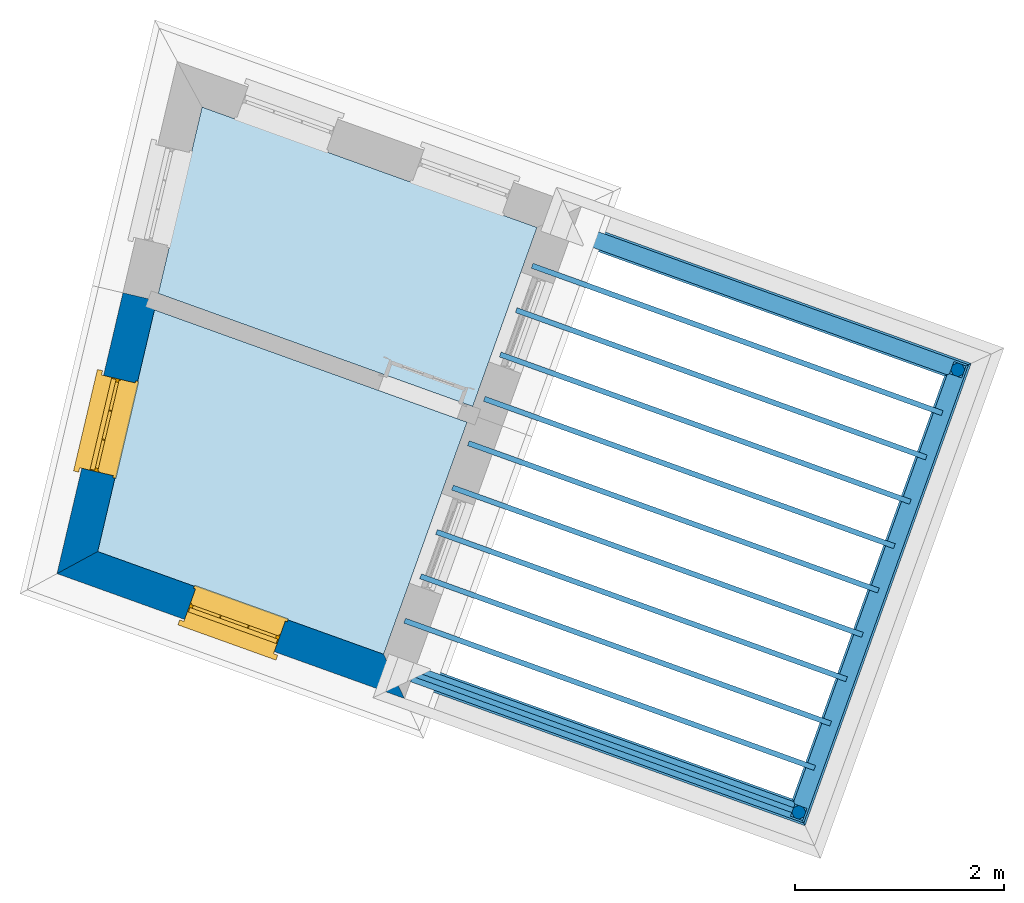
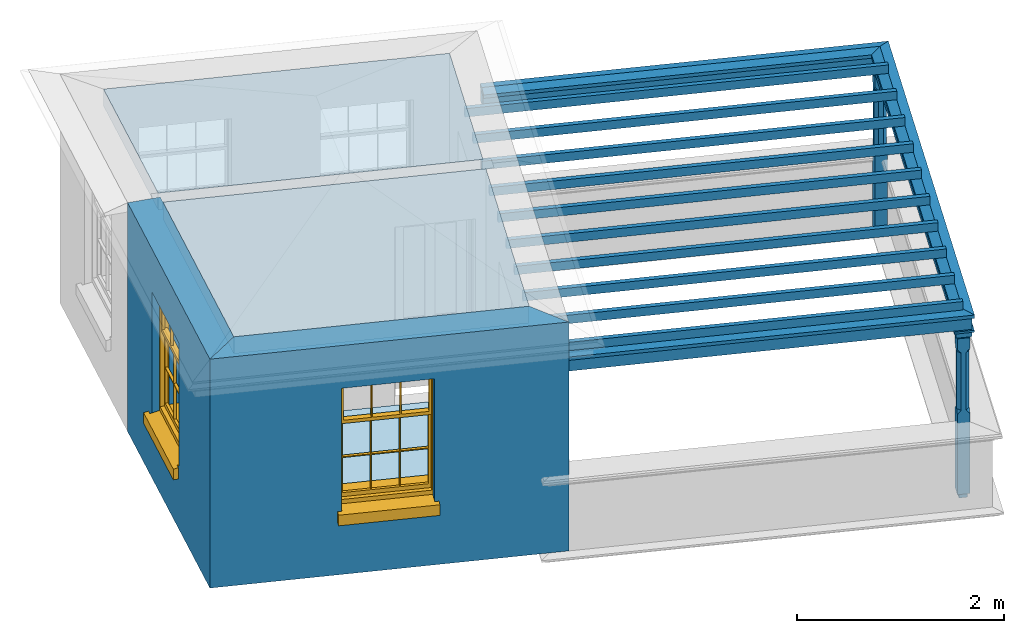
# One storey, part 1 of 5: 16 beams, 3 slabs, 2 columns, 2 walls, 2 windows, 2 openings.
"""IFC4 building model written with IfcOpenShell, lengths in metres."""

from ifc_helpers import new_model, si_unit, frame, origin, origin_with_axes, place, context, subcontext, project, spatial, polyline, outline, extrude, clip, halfspace, faceted_brep, source, transform, mapped, material, layer, layer_set, layer_usage, material_profile, profile_set, profile_usage, type_object, type_shapes, element, fill, save


model = new_model("IFC4")

# Units and contexts
model_context = context("Model", 3, world=origin_with_axes())
body_context = subcontext(model_context, "Body", "Model", "MODEL_VIEW")
ifc_project = project(units=[si_unit("PLANEANGLEUNIT", "RADIAN"), si_unit("MASSUNIT", "GRAM", prefix="KILO"), si_unit("FORCEUNIT", "NEWTON", prefix="KILO"), si_unit("LENGTHUNIT", "METRE"), si_unit("AREAUNIT", "SQUARE_METRE"), si_unit("VOLUMEUNIT", "CUBIC_METRE")], contexts=[model_context, model_context])

# Sites, building, storey
site_1_placement = place(None, origin_with_axes())
site_1 = spatial("IfcSite", under=ifc_project, at=site_1_placement, Name="Tamar")
site_2_placement = place(site_1_placement, origin_with_axes())
site_2 = spatial("IfcSite", under=site_1, at=site_2_placement, Name="Site plot-22", CompositionType="ELEMENT")
building_placement = place(None, origin_with_axes())
building = spatial("IfcBuilding", under=site_2, at=building_placement, Name="Building plot-22", CompositionType="ELEMENT")
storey_placement = place(None, frame((0.0, 0.0, 30.5), z_axis=(0.0, 0.0, 1.0), x_axis=(1.0, 0.0, 0.0)))
storey = spatial("IfcBuildingStorey", under=building, at=storey_placement, Name="plot-22 2", CompositionType="ELEMENT", Elevation=30.5)

# Columns
column_type = type_object("IfcColumnType", Name="pergola post", PredefinedType="NOTDEFINED")
shared_shape_1 = source(origin(), body_context, "Body", "Brep", [
    faceted_brep([(0.0246, -0.0615, 1.72), (0.0615, -0.0246, 1.72), (0.0615, -0.0615, 1.766667), (0.0615, -0.0246, 1.044444), (0.0246, -0.0615, 1.044444), (0.0615, 0.0246, 1.72), (0.0615, 0.0615, 1.766667), (-0.0246, -0.0615, 1.72), (-0.0615, -0.0615, 1.766667), (-0.0246, -0.0615, 1.044444), (0.0615, -0.0615, 0.997778), (0.0615, 0.0246, 1.044444), (0.0246, 0.0615, 1.72), (0.0615, 0.0615, 1.891111), (0.0615, -0.0615, 1.891111), (-0.0615, -0.0615, 1.891111), (-0.0615, -0.0246, 1.72), (-0.0615, -0.0246, 1.044444), (-0.0615, -0.0615, 0.997778), (0.0615, 0.0615, 0.997778), (0.0246, 0.0615, 1.044444), (-0.0246, 0.0615, 1.72), (-0.0615, 0.0615, 1.766667), (0.04305, 0.04305, 1.891111), (0.04305, -0.04305, 1.891111), (-0.0615, 0.0615, 1.891111), (-0.04305, -0.04305, 1.891111), (-0.0615, 0.0246, 1.72), (-0.0615, 0.0246, 1.044444), (0.0615, -0.0615, 0.053333), (-0.0615, -0.0615, 0.053333), (0.0615, 0.0615, 0.053333), (-0.0246, 0.0615, 1.044444), (-0.04305, 0.04305, 1.891111), (0.04305, 0.04305, 1.914444), (0.04305, -0.04305, 1.914444), (-0.04305, -0.04305, 1.914444), (-0.0615, 0.0615, 0.997778), (-0.0615, 0.0615, 0.053333), (-0.04305, -0.04305, 0.053333), (0.04305, -0.04305, 0.053333), (0.04305, 0.04305, 0.053333), (-0.04305, 0.04305, 1.914444), (0.07995, 0.07995, 1.914444), (0.07995, -0.07995, 1.914444), (-0.07995, -0.07995, 1.914444), (-0.04305, 0.04305, 0.053333), (-0.04305, -0.04305, 0.0), (0.04305, -0.04305, 0.0), (0.04305, 0.04305, 0.0), (-0.07995, 0.07995, 1.914444), (0.07995, 0.07995, 1.976667), (0.07995, -0.07995, 1.976667), (-0.07995, -0.07995, 1.976667), (-0.04305, 0.04305, 0.0), (-0.07995, 0.07995, 1.976667), (0.0984, 0.0984, 1.976667), (0.0984, -0.0984, 1.976667), (-0.0984, -0.0984, 1.976667), (-0.0984, 0.0984, 1.976667), (0.0984, 0.0984, 2.0), (0.0984, -0.0984, 2.0), (-0.0984, -0.0984, 2.0), (-0.0984, 0.0984, 2.0)], [[[0, 1, 2]], [[3, 1, 0, 4]], [[1, 5, 6, 2]], [[7, 0, 2, 8]], [[4, 0, 7, 9]], [[3, 4, 10]], [[1, 3, 11, 5]], [[5, 12, 6]], [[13, 14, 2, 6]], [[15, 8, 2, 14]], [[8, 16, 7]], [[9, 7, 16, 17]], [[9, 18, 10, 4]], [[3, 10, 19, 11]], [[20, 12, 5, 11]], [[21, 22, 6, 12]], [[14, 13, 23, 24]], [[13, 6, 22, 25]], [[25, 22, 8, 15]], [[26, 15, 14, 24]], [[16, 8, 22, 27]], [[27, 28, 17, 16]], [[17, 18, 9]], [[29, 10, 18, 30]], [[31, 19, 10, 29]], [[20, 11, 19]], [[12, 20, 32, 21]], [[21, 27, 22]], [[33, 23, 13, 25]], [[23, 34, 35, 24]], [[26, 33, 25, 15]], [[36, 26, 24, 35]], [[28, 27, 21, 32]], [[17, 28, 37, 18]], [[38, 30, 18, 37]], [[29, 30, 39, 40]], [[31, 38, 37, 19]], [[40, 41, 31, 29]], [[32, 20, 19, 37]], [[33, 42, 34, 23]], [[43, 44, 35, 34]], [[42, 33, 26, 36]], [[36, 35, 44, 45]], [[28, 32, 37]], [[46, 39, 30, 38]], [[39, 47, 48, 40]], [[46, 38, 31, 41]], [[49, 41, 40, 48]], [[43, 34, 42, 50]], [[43, 51, 52, 44]], [[45, 50, 42, 36]], [[53, 45, 44, 52]], [[46, 54, 47, 39]], [[54, 46, 41, 49]], [[50, 55, 51, 43]], [[56, 57, 52, 51]], [[55, 50, 45, 53]], [[53, 52, 57, 58]], [[56, 51, 55, 59]], [[56, 60, 61, 57]], [[58, 59, 55, 53]], [[62, 58, 57, 61]], [[59, 63, 60, 56]], [[63, 62, 61, 60]], [[58, 62, 63, 59]], [[47, 54, 49, 48]]]),
])
type_shapes(column_type, [shared_shape_1])
for number, where, z_axis, x_axis, name in (
    (1, (256.825968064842, 269.392124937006, 0.0), (0.0, 0.0, 1.0), (0.338164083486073, 0.941087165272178, 0.0), "pergola post"),
    (2, (258.344209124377, 273.617284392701, 0.0), (0.0, 0.0, 1.0), (-0.941087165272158, 0.338164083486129, 0.0), "pergola post"),
):
    element("IfcColumn", number, at=place(storey_placement, frame(where, z_axis=z_axis, x_axis=x_axis)), inside=storey, type_object=column_type, Name=name, context=body_context, shape_type="MappedRepresentation", body=[
        mapped(shared_shape_1, transform((0.0, 0.0, 0.0), scale=1.0)),
    ])

# Beams
ifc_material_profile_1 = material_profile(None, outline(polyline([(-0.08, -0.7), (0.08, -0.7), (0.08, -0.56), (-0.08, -0.56), (-0.08, -0.7)])))
ifc_profile_set_1 = profile_set([ifc_material_profile_1])
ifc_profile_usage_1 = profile_usage(ifc_profile_set_1)
beam_type_1 = type_object("IfcBeamType", Name="pergola beam_0", PredefinedType="NOTDEFINED", material=ifc_profile_set_1)
beam_1_placement = place(storey_placement, frame((257.767055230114, 269.05396085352, 2.7), z_axis=(-0.941087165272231, 0.338164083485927, 0.0), x_axis=(-0.338164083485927, -0.941087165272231, 0.0)))
element("IfcBeam", 3, at=beam_1_placement, inside=storey, type_object=beam_type_1, material=ifc_profile_usage_1, Name="pergola beam_0", context=body_context, shape_type="Clipping", body=[
    clip(clip(extrude(outline(polyline([(-0.08, -0.7), (0.08, -0.7), (0.08, -0.56), (-0.08, -0.56), (-0.08, -0.7)])), origin_with_axes(), (0.0, 0.0, 1.0), 5.90963962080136), halfspace(frame((0.0, 0.0, 4.90963962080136), z_axis=(1.10409979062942e-14, 0.0, -1.0), x_axis=(0.0, 1.0, 0.0)), True)), halfspace(frame((0.0, 0.0, 1.0), z_axis=(-0.707106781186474, 0.0, -0.70710678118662), x_axis=(0.0, 1.0, 0.0)), False)),
])
ifc_profile_usage_2 = profile_usage(ifc_profile_set_1)
beam_2_placement = place(storey_placement, frame((258.682373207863, 274.558371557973, 2.7), z_axis=(-0.338164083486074, -0.941087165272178, 0.0), x_axis=(0.941087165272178, -0.338164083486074, 0.0)))
element("IfcBeam", 4, at=beam_2_placement, inside=storey, type_object=beam_type_1, material=ifc_profile_usage_2, Name="pergola beam_0", context=body_context, shape_type="Clipping", body=[
    clip(clip(extrude(outline(polyline([(-0.08, -0.7), (0.08, -0.7), (0.08, -0.56), (-0.08, -0.56), (-0.08, -0.7)])), origin_with_axes(), (0.0, 0.0, 1.0), 6.48965793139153), halfspace(frame((0.0, 0.0, 5.48965793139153), z_axis=(0.70710678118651, 0.0, -0.707106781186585), x_axis=(0.0, 1.0, 0.0)), True)), halfspace(frame((0.0, 0.0, 1.0), z_axis=(-0.707106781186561, 0.0, -0.707106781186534), x_axis=(0.0, 1.0, 0.0)), False)),
])
ifc_profile_usage_3 = profile_usage(ifc_profile_set_1)
beam_3_placement = place(storey_placement, frame((253.723810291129, 275.277548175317, 2.7), z_axis=(0.941087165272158, -0.33816408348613, 0.0), x_axis=(0.33816408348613, 0.941087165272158, 0.0)))
element("IfcBeam", 5, at=beam_3_placement, inside=storey, type_object=beam_type_1, material=ifc_profile_usage_3, Name="pergola beam_0", context=body_context, shape_type="Clipping", body=[
    clip(clip(extrude(outline(polyline([(-0.08, -0.7), (0.08, -0.7), (0.08, -0.56), (-0.08, -0.56), (-0.08, -0.7)])), origin_with_axes(), (0.0, 0.0, 1.0), 5.90963962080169), halfspace(frame((0.0, 0.0, 4.90963962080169), z_axis=(0.707106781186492, 0.0, -0.707106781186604), x_axis=(0.0, 1.0, 0.0)), True)), halfspace(frame((0.0, 0.0, 1.0), z_axis=(1.27103528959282e-15, 0.0, -1.0), x_axis=(0.0, 1.0, 0.0)), False)),
])
ifc_material_profile_2 = material_profile(None, outline(polyline([(0.0, -0.5), (-0.1, -0.52), (-0.1, -0.56), (0.1, -0.56), (0.1, -0.52), (0.0, -0.5)])))
ifc_profile_set_2 = profile_set([ifc_material_profile_2])
ifc_profile_usage_4 = profile_usage(ifc_profile_set_2)
beam_type_2 = type_object("IfcBeamType", Name="pergola beam_1", PredefinedType="NOTDEFINED", material=ifc_profile_set_2)
beam_4_placement = place(storey_placement, frame((257.767055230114, 269.05396085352, 2.7), z_axis=(-0.941087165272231, 0.338164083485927, 0.0), x_axis=(-0.338164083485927, -0.941087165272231, 0.0)))
element("IfcBeam", 6, at=beam_4_placement, inside=storey, type_object=beam_type_2, material=ifc_profile_usage_4, Name="pergola beam_1", context=body_context, shape_type="Clipping", body=[
    clip(clip(extrude(outline(polyline([(0.0, -0.5), (-0.1, -0.52), (-0.1, -0.56), (0.1, -0.56), (0.1, -0.52), (0.0, -0.5)])), origin_with_axes(), (0.0, 0.0, 1.0), 5.90963962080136), halfspace(frame((0.0, 0.0, 4.90963962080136), z_axis=(1.10409979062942e-14, 0.0, -1.0), x_axis=(0.0, 1.0, 0.0)), True)), halfspace(frame((0.0, 0.0, 1.0), z_axis=(-0.707106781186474, 0.0, -0.70710678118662), x_axis=(0.0, 1.0, 0.0)), False)),
])
ifc_profile_usage_5 = profile_usage(ifc_profile_set_2)
beam_5_placement = place(storey_placement, frame((258.682373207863, 274.558371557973, 2.7), z_axis=(-0.338164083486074, -0.941087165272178, 0.0), x_axis=(0.941087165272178, -0.338164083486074, 0.0)))
element("IfcBeam", 7, at=beam_5_placement, inside=storey, type_object=beam_type_2, material=ifc_profile_usage_5, Name="pergola beam_1", context=body_context, shape_type="Clipping", body=[
    clip(clip(extrude(outline(polyline([(0.0, -0.5), (-0.1, -0.52), (-0.1, -0.56), (0.1, -0.56), (0.1, -0.52), (0.0, -0.5)])), origin_with_axes(), (0.0, 0.0, 1.0), 6.48965793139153), halfspace(frame((0.0, 0.0, 5.48965793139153), z_axis=(0.70710678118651, 0.0, -0.707106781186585), x_axis=(0.0, 1.0, 0.0)), True)), halfspace(frame((0.0, 0.0, 1.0), z_axis=(-0.707106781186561, 0.0, -0.707106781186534), x_axis=(0.0, 1.0, 0.0)), False)),
])
ifc_profile_usage_6 = profile_usage(ifc_profile_set_2)
beam_6_placement = place(storey_placement, frame((253.723810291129, 275.277548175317, 2.7), z_axis=(0.941087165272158, -0.33816408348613, 0.0), x_axis=(0.33816408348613, 0.941087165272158, 0.0)))
element("IfcBeam", 8, at=beam_6_placement, inside=storey, type_object=beam_type_2, material=ifc_profile_usage_6, Name="pergola beam_1", context=body_context, shape_type="Clipping", body=[
    clip(clip(extrude(outline(polyline([(0.0, -0.5), (-0.1, -0.52), (-0.1, -0.56), (0.1, -0.56), (0.1, -0.52), (0.0, -0.5)])), origin_with_axes(), (0.0, 0.0, 1.0), 5.90963962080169), halfspace(frame((0.0, 0.0, 4.90963962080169), z_axis=(0.707106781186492, 0.0, -0.707106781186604), x_axis=(0.0, 1.0, 0.0)), True)), halfspace(frame((0.0, 0.0, 1.0), z_axis=(1.27103528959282e-15, 0.0, -1.0), x_axis=(0.0, 1.0, 0.0)), False)),
])
beam_7_placement = place(storey_placement, frame((256.817513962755, 269.368597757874, 2.2)))
element("IfcBeam", 9, at=beam_7_placement, inside=storey, Name="My Beam", ObjectType="Beam", context=body_context, shape_type="SweptSolid", body=[
    extrude(outline(polyline([(0.0, 0.0), (0.0169082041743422, 0.0470543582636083), (-3.89767525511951, 1.45369507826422), (-3.91458345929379, 1.40664072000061), (0.0, 0.0)])), origin_with_axes(), (0.0, 0.0, 1.0), 0.1),
])
beam_8_placement = place(storey_placement, frame((256.969687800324, 269.792086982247, 2.2)))
element("IfcBeam", 10, at=beam_8_placement, inside=storey, Name="My Beam", ObjectType="Beam", context=body_context, shape_type="SweptSolid", body=[
    extrude(outline(polyline([(0.0, 0.0), (0.0169082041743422, 0.0470543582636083), (-3.89767525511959, 1.45369507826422), (-3.91458345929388, 1.40664072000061), (0.0, 0.0)])), origin_with_axes(), (0.0, 0.0, 1.0), 0.1),
])
beam_9_placement = place(storey_placement, frame((257.121861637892, 270.215576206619, 2.2)))
element("IfcBeam", 11, at=beam_9_placement, inside=storey, Name="My Beam", ObjectType="Beam", context=body_context, shape_type="SweptSolid", body=[
    extrude(outline(polyline([(0.0, 0.0), (0.0169082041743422, 0.0470543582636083), (-3.89767525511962, 1.45369507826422), (-3.91458345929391, 1.40664072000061), (0.0, 0.0)])), origin_with_axes(), (0.0, 0.0, 1.0), 0.1),
])
beam_10_placement = place(storey_placement, frame((257.274035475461, 270.639065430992, 2.2)))
element("IfcBeam", 12, at=beam_10_placement, inside=storey, Name="My Beam", ObjectType="Beam", context=body_context, shape_type="SweptSolid", body=[
    extrude(outline(polyline([(0.0, 0.0), (0.0169082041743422, 0.0470543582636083), (-3.89767525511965, 1.45369507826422), (-3.91458345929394, 1.40664072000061), (0.0, 0.0)])), origin_with_axes(), (0.0, 0.0, 1.0), 0.1),
])
beam_11_placement = place(storey_placement, frame((257.42620931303, 271.062554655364, 2.2)))
element("IfcBeam", 13, at=beam_11_placement, inside=storey, Name="My Beam", ObjectType="Beam", context=body_context, shape_type="SweptSolid", body=[
    extrude(outline(polyline([(0.0, 0.0), (0.0169082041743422, 0.0470543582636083), (-3.89767525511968, 1.45369507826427), (-3.91458345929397, 1.40664072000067), (0.0, 0.0)])), origin_with_axes(), (0.0, 0.0, 1.0), 0.1),
])
beam_12_placement = place(storey_placement, frame((257.578383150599, 271.486043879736, 2.2)))
element("IfcBeam", 14, at=beam_12_placement, inside=storey, Name="My Beam", ObjectType="Beam", context=body_context, shape_type="SweptSolid", body=[
    extrude(outline(polyline([(0.0, 0.0), (0.0169082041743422, 0.0470543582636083), (-3.89767525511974, 1.45369507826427), (-3.91458345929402, 1.40664072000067), (0.0, 0.0)])), origin_with_axes(), (0.0, 0.0, 1.0), 0.1),
])
beam_13_placement = place(storey_placement, frame((257.730556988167, 271.909533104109, 2.2)))
element("IfcBeam", 15, at=beam_13_placement, inside=storey, Name="My Beam", ObjectType="Beam", context=body_context, shape_type="SweptSolid", body=[
    extrude(outline(polyline([(0.0, 0.0), (0.0169082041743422, 0.0470543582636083), (-3.89767525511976, 1.45369507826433), (-3.91458345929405, 1.40664072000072), (0.0, 0.0)])), origin_with_axes(), (0.0, 0.0, 1.0), 0.1),
])
beam_14_placement = place(storey_placement, frame((257.882730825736, 272.333022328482, 2.2)))
element("IfcBeam", 16, at=beam_14_placement, inside=storey, Name="My Beam", ObjectType="Beam", context=body_context, shape_type="SweptSolid", body=[
    extrude(outline(polyline([(0.0, 0.0), (0.0169082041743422, 0.0470543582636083), (-3.89767525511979, 1.45369507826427), (-3.91458345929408, 1.40664072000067), (0.0, 0.0)])), origin_with_axes(), (0.0, 0.0, 1.0), 0.1),
])
beam_15_placement = place(storey_placement, frame((258.034904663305, 272.756511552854, 2.2)))
element("IfcBeam", 17, at=beam_15_placement, inside=storey, Name="My Beam", ObjectType="Beam", context=body_context, shape_type="SweptSolid", body=[
    extrude(outline(polyline([(0.0, 0.0), (0.0169082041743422, 0.0470543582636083), (-3.89767525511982, 1.45369507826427), (-3.91458345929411, 1.40664072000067), (0.0, 0.0)])), origin_with_axes(), (0.0, 0.0, 1.0), 0.1),
])
beam_16_placement = place(storey_placement, frame((258.187078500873, 273.180000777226, 2.2)))
element("IfcBeam", 18, at=beam_16_placement, inside=storey, Name="My Beam", ObjectType="Beam", context=body_context, shape_type="SweptSolid", body=[
    extrude(outline(polyline([(0.0, 0.0), (0.0169082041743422, 0.0470543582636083), (-3.89767525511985, 1.45369507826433), (-3.91458345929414, 1.40664072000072), (0.0, 0.0)])), origin_with_axes(), (0.0, 0.0, 1.0), 0.1),
])

# Slabs
slab_1_placement = place(storey_placement, frame((251.12970660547, 276.124688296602, 2.5)))
element("IfcSlab", 19, at=slab_1_placement, inside=storey, Name="My Slab", ObjectType="Slab", PredefinedType="FLOOR", context=body_context, shape_type="SweptSolid", body=[
    extrude(outline(polyline([(0.0, 0.0), (-0.417819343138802, -1.77888691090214), (2.58368293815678, -2.85742703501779), (3.19757895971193, -1.1489970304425), (0.0, 0.0)])), origin_with_axes(), (0.0, 0.0, 1.0), 0.2),
])
slab_2_placement = place(storey_placement, frame((250.675062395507, 274.189017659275, 2.5)))
element("IfcSlab", 20, at=slab_2_placement, inside=storey, Name="My Slab", ObjectType="Slab", PredefinedType="FLOOR", context=body_context, shape_type="SweptSolid", body=[
    extrude(outline(polyline([(0.0, 0.0), (-0.541850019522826, -2.30695376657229), (2.1880883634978, -3.28791190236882), (2.9842208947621, -1.07233034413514), (0.0, 0.0)])), origin_with_axes(), (0.0, 0.0, 1.0), 0.2),
])
slab_3_placement = place(storey_placement, frame((250.675062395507, 274.189017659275, 0.0)))
element("IfcSlab", 21, at=slab_3_placement, inside=storey, Name="My Slab", ObjectType="Slab", PredefinedType="FLOOR", context=body_context, shape_type="SweptSolid", body=[
    extrude(outline(polyline([(0.0, 0.0), (-0.541850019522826, -2.30695376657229), (2.1880883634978, -3.28791190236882), (2.9842208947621, -1.07233034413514), (0.0, 0.0)])), origin_with_axes(), (0.0, 0.0, 1.0), 0.02),
])

# Wall, opening, window
ifc_material = material(Name="Masonry")
ifc_layer = layer(ifc_material, 0.33, ventilated=False)
ifc_layer_set = layer_set([ifc_layer], Name="exterior_0.08_0.25")
ifc_layer_usage = layer_usage(ifc_layer_set, "AXIS2", "POSITIVE", -0.25)
wall_type = type_object("IfcWallType", Name="exterior_0.08_0.25", PredefinedType="SOLIDWALL", material=ifc_layer_set)
wall_1_placement = place(storey_placement, frame((250.617693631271, 274.294640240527, 0.0), z_axis=(0.0, 0.0, 1.0), x_axis=(-0.228654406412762, -0.973507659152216, 0.0)))
wall_1 = element("IfcWall", 22, at=wall_1_placement, inside=storey, type_object=wall_type, material=ifc_layer_usage, Name="exterior", context=body_context, shape_type="SweptSolid", body=[
    extrude(outline(polyline([(-4.84638636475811e-15, 0.0799999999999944), (1.23387836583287e-14, -0.250000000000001), (2.75373249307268, -0.249999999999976), (2.4594403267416, 0.0799999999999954), (-4.84638636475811e-15, 0.0799999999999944)])), origin_with_axes(), (0.0, 0.0, 1.0), 2.7),
])
opening_1_placement = place(wall_1_placement, frame((0.810391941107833, 0.0, 0.75)))
opening_1 = element("IfcOpeningElement", 23, at=opening_1_placement, cuts=wall_1, Name="My Opening", ObjectType="Opening", context=body_context, shape_type="SweptSolid", body=[
    extrude(outline(polyline([(0.0, -0.270000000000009), (0.910000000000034, -0.270000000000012), (0.910000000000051, 1.09999999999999), (1.70974345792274e-14, 1.1), (0.0, -0.270000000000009)])), origin_with_axes(), (0.0, 0.0, 1.0), 1.445),
])
window_type = type_object("IfcWindowType", Name="sash_shorter", PartitioningType="DOUBLE_PANEL_HORIZONTAL", PredefinedType="NOTDEFINED")
shared_shape_2 = source(origin(), body_context, "Body", "Brep", [
    faceted_brep([(0.876875, 0.145, 0.999097), (0.876875, 0.145, 1.411875), (0.9, 0.145, 1.435), (0.033125, 0.145, 1.411875), (0.033125, 0.145, 0.999097), (0.01, 0.145, 1.435), (0.033125, 0.115, 1.411875), (0.01, 0.115, 1.435), (0.033125, 0.115, 0.999097), (0.876875, 0.115, 1.411875), (0.876875, 0.115, 0.999097), (0.9, 0.115, 1.435), (0.033125, 0.145, 0.960972), (0.01, 0.145, 0.960972), (0.033125, 0.145, 0.548195), (0.876875, 0.145, 0.960972), (0.876875, 0.145, 0.548195), (0.9, 0.145, 0.960972), (0.876875, 0.145, 0.538195), (0.876875, 0.145, 0.125417), (0.9, 0.145, 0.077167), (0.033125, 0.145, 0.125417), (0.033125, 0.145, 0.538195), (0.01, 0.145, 0.077167), (0.9, 0.115, 0.960972), (0.01, 0.115, 0.960972), (-0.0425, 0.0, 0.01), (-0.0425, -0.05, 0.001667), (0.0, 0.0, 0.01), (0.9525, 0.0, 0.01), (0.91, 0.0, 0.01), (0.9525, -0.05, 0.001667), (-0.02, 0.33, 0.077167), (0.0, 0.33, 0.077167), (-0.02, 0.36, 0.077167), (0.0, 0.19, 0.077167), (0.01, 0.19, 0.077167), (0.91, 0.19, 0.077167), (0.91, 0.33, 0.077167), (0.9, 0.19, 0.077167), (0.93, 0.33, 0.077167), (0.93, 0.36, 0.077167), (0.01, 0.145, 0.999097), (0.01, 0.175, 0.999097), (0.9, 0.145, 0.999097), (0.9, 0.175, 0.999097), (0.876875, 0.175, 0.125417), (0.876875, 0.175, 0.538195), (0.9, 0.175, 0.077167), (0.876875, 0.175, 0.548195), (0.876875, 0.175, 0.960972), (0.033125, 0.175, 0.125417), (0.01, 0.175, 0.077167), (0.033125, 0.175, 0.538195), (0.033125, 0.175, 0.960972), (0.033125, 0.175, 0.548195), (-0.02, 0.33, 0.052167), (-0.02, 0.36, 0.052167), (0.93, 0.36, 0.052167), (0.93, 0.33, 0.052167), (0.91, 0.33, 0.052167), (0.0, 0.33, 0.052167), (0.91, 0.1, 0.026667), (0.0, 0.1, 0.026667), (-0.0425, -0.05, -0.123333), (0.9525, -0.05, -0.123333), (-0.0425, 0.0, -0.123333), (0.9525, 0.0, -0.123333), (0.01, 0.19, 1.435), (0.9, 0.19, 1.435), (0.0, 0.19, 1.445), (0.91, 0.19, 1.445), (0.01, 0.1, 0.077167), (0.9, 0.1, 0.077167), (0.592292, 0.145, 0.125417), (0.592292, 0.175, 0.125417), (0.317708, 0.175, 0.125417), (0.317708, 0.145, 0.125417), (0.592292, 0.145, 0.548195), (0.317708, 0.145, 0.548195), (0.317708, 0.145, 0.538195), (0.592292, 0.145, 0.538195), (0.592292, 0.175, 0.548195), (0.317708, 0.175, 0.548195), (0.602292, 0.175, 0.548195), (0.602292, 0.145, 0.548195), (0.317708, 0.175, 0.538195), (0.307708, 0.175, 0.125417), (0.307708, 0.175, 0.538195), (0.602292, 0.175, 0.538195), (0.602292, 0.175, 0.125417), (0.592292, 0.175, 0.538195), (0.307708, 0.175, 0.548195), (0.317708, 0.175, 0.960972), (0.307708, 0.175, 0.960972), (0.602292, 0.175, 0.960972), (0.592292, 0.175, 0.960972), (0.307708, 0.145, 0.538195), (0.307708, 0.145, 0.125417), (0.307708, 0.145, 0.548195), (0.307708, 0.145, 0.960972), (0.592292, 0.145, 0.960972), (0.317708, 0.145, 0.960972), (0.602292, 0.145, 0.960972), (0.602292, 0.145, 0.538195), (0.602292, 0.145, 0.125417), (0.317708, 0.115, 1.411875), (0.307708, 0.115, 1.411875), (0.307708, 0.115, 0.999097), (0.317708, 0.115, 0.999097), (0.602292, 0.115, 1.411875), (0.592292, 0.115, 1.411875), (0.592292, 0.115, 0.999097), (0.602292, 0.115, 0.999097), (0.317708, 0.145, 0.999097), (0.307708, 0.145, 0.999097), (0.307708, 0.145, 1.411875), (0.317708, 0.145, 1.411875), (0.602292, 0.145, 0.999097), (0.592292, 0.145, 0.999097), (0.592292, 0.145, 1.411875), (0.602292, 0.145, 1.411875), (0.91, 0.1, 1.445), (0.9, 0.1, 1.435), (0.01, 0.1, 1.435), (0.0, 0.1, 1.445), (0.91, 0.0, 0.0), (0.0, 0.0, 0.0), (0.91, 0.33, 0.0), (0.0, 0.33, 0.0)], [[[0, 1, 2]], [[3, 4, 5]], [[6, 7, 8]], [[9, 10, 11]], [[12, 13, 14]], [[15, 16, 17]], [[18, 19, 20]], [[21, 22, 23]], [[24, 15, 17]], [[13, 12, 25]], [[26, 27, 28]], [[29, 30, 31]], [[32, 33, 34]], [[35, 36, 33]], [[37, 38, 39]], [[40, 41, 38]], [[42, 4, 43]], [[44, 45, 0]], [[46, 47, 48]], [[49, 50, 45]], [[51, 52, 53]], [[54, 55, 43]], [[38, 33, 36, 39]], [[41, 34, 33, 38]], [[56, 32, 34, 57]], [[57, 34, 41, 58]], [[58, 41, 40, 59]], [[57, 58, 60, 61]], [[52, 48, 39, 36]], [[62, 63, 28, 30]], [[27, 31, 30, 28]], [[27, 64, 65, 31]], [[66, 67, 65, 64]], [[2, 5, 68, 69]], [[68, 70, 71, 69]], [[20, 23, 72, 73]], [[73, 72, 63, 62]], [[74, 75, 76, 77]], [[78, 79, 80, 81]], [[78, 82, 83, 79]], [[16, 49, 84, 85]], [[86, 76, 87, 88]], [[89, 90, 75, 91]], [[92, 88, 53, 55]], [[82, 91, 86, 83]], [[93, 83, 92, 94]], [[95, 84, 82, 96]], [[89, 84, 49, 47]], [[97, 88, 87, 98]], [[22, 53, 88, 97]], [[81, 91, 75, 74]], [[80, 86, 91, 81]], [[77, 76, 86, 80]], [[99, 92, 55, 14]], [[100, 94, 92, 99]], [[101, 96, 82, 78]], [[79, 83, 93, 102]], [[85, 84, 95, 103]], [[104, 89, 47, 18]], [[105, 90, 89, 104]], [[104, 18, 16, 85]], [[80, 97, 98, 77]], [[104, 81, 74, 105]], [[103, 101, 78, 85]], [[99, 14, 22, 97]], [[102, 100, 99, 79]], [[106, 107, 108, 109]], [[110, 111, 112, 113]], [[114, 115, 116, 117]], [[118, 119, 120, 121]], [[107, 116, 115, 108]], [[111, 120, 119, 112]], [[109, 114, 117, 106]], [[113, 118, 121, 110]], [[85, 78, 81, 104]], [[84, 89, 91, 82]], [[83, 86, 88, 92]], [[79, 99, 97, 80]], [[109, 112, 119, 114]], [[102, 93, 96, 101]], [[106, 117, 120, 111]], [[98, 87, 51, 21]], [[6, 3, 116, 107]], [[110, 121, 1, 9]], [[19, 46, 90, 105]], [[26, 66, 64, 27]], [[29, 31, 65, 67]], [[25, 24, 112, 109]], [[11, 7, 106, 111]], [[75, 48, 52, 76]], [[43, 45, 96, 93]], [[45, 43, 114, 119]], [[5, 2, 120, 117]], [[24, 25, 102, 101]], [[42, 5, 4]], [[2, 44, 0]], [[49, 45, 48, 47]], [[52, 43, 55, 53]], [[14, 13, 23, 22]], [[20, 17, 16, 18]], [[24, 11, 10]], [[25, 8, 7]], [[8, 4, 3, 6]], [[9, 1, 0, 10]], [[15, 50, 49, 16]], [[18, 47, 46, 19]], [[21, 51, 53, 22]], [[14, 55, 54, 12]], [[44, 2, 69, 45]], [[68, 5, 42, 43]], [[36, 35, 70, 68]], [[39, 69, 71, 37]], [[62, 122, 123, 73]], [[63, 72, 124, 125]], [[8, 108, 115, 4]], [[113, 10, 0, 118]], [[94, 100, 12, 54]], [[17, 20, 73, 24]], [[72, 23, 13, 25]], [[52, 36, 68, 43]], [[69, 39, 48, 45]], [[11, 24, 73, 123]], [[7, 124, 72, 25]], [[23, 77, 98]], [[98, 21, 23]], [[105, 74, 20]], [[20, 19, 105]], [[20, 74, 77, 23]], [[113, 112, 24]], [[24, 10, 113]], [[25, 109, 108]], [[108, 8, 25]], [[110, 9, 11]], [[11, 111, 110]], [[7, 6, 107]], [[107, 106, 7]], [[5, 117, 116]], [[116, 3, 5]], [[121, 120, 2]], [[2, 1, 121]], [[11, 123, 124, 7]], [[122, 125, 124, 123]], [[43, 93, 94]], [[94, 54, 43]], [[96, 45, 95]], [[50, 95, 45]], [[15, 103, 95, 50]], [[48, 75, 90]], [[90, 46, 48]], [[87, 76, 52]], [[52, 51, 87]], [[103, 15, 24]], [[24, 101, 103]], [[100, 102, 25]], [[25, 12, 100]], [[115, 114, 43]], [[43, 4, 115]], [[118, 0, 45]], [[45, 119, 118]], [[71, 70, 125, 122]], [[70, 35, 63, 125]], [[122, 62, 37, 71]], [[126, 67, 66, 127]], [[60, 58, 59]], [[38, 60, 59, 40]], [[61, 56, 57]], [[32, 56, 61, 33]], [[61, 60, 128, 129]], [[62, 60, 38, 37]], [[126, 128, 60, 62]], [[33, 61, 63, 35]], [[61, 129, 127, 63]], [[128, 126, 127, 129]], [[28, 127, 66, 26]], [[63, 127, 28]], [[29, 67, 126, 30]], [[30, 126, 62]]]),
])
type_shapes(window_type, [shared_shape_2])
window_1_placement = place(storey_placement, frame((250.169546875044, 273.567454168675, 0.75), z_axis=(0.0, 0.0, 1.0), x_axis=(-0.208075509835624, -0.885891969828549, 0.0)))
window_1 = element("IfcWindow", 24, at=window_1_placement, inside=storey, type_object=window_type, Name="bedroom outside window", OverallHeight=1.445, OverallWidth=0.91, context=body_context, shape_type="MappedRepresentation", body=[
    mapped(shared_shape_2, transform((0.0, 0.0, 0.0), scale=1.0)),
])
fill(opening_1, window_1)

wall_2_placement = place(storey_placement, frame((250.039018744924, 271.830902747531, 0.0), z_axis=(0.0, 0.0, 1.0), x_axis=(0.941087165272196, -0.338164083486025, 0.0)))
wall_2 = element("IfcWall", 25, at=wall_2_placement, inside=storey, type_object=wall_type, material=ifc_layer_usage, Name="exterior", context=body_context, shape_type="SweptSolid", body=[
    extrude(outline(polyline([(0.0713435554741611, 0.0799999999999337), (-0.222948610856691, -0.250000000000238), (3.30217833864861, -0.25000000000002), (2.97217833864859, 0.0799999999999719), (0.0713435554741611, 0.0799999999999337)])), origin_with_axes(), (0.0, 0.0, 1.0), 2.7),
])
opening_2_placement = place(wall_2_placement, frame((1.07108916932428, 0.0, 0.75)))
opening_2 = element("IfcOpeningElement", 26, at=opening_2_placement, cuts=wall_2, Name="My Opening", ObjectType="Opening", context=body_context, shape_type="SweptSolid", body=[
    extrude(outline(polyline([(0.0, -0.269999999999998), (0.910000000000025, -0.270000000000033), (0.910000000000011, 1.1), (-1.46549439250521e-14, 1.10000000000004), (0.0, -0.269999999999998)])), origin_with_axes(), (0.0, 0.0, 1.0), 1.445),
])
window_2_placement = place(storey_placement, frame((250.955702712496, 271.214605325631, 0.75), z_axis=(0.0, 0.0, 1.0), x_axis=(0.85638932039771, -0.307729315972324, 0.0)))
window_2 = element("IfcWindow", 27, at=window_2_placement, inside=storey, type_object=window_type, Name="bedroom outside window", OverallHeight=1.445, OverallWidth=0.91, context=body_context, shape_type="MappedRepresentation", body=[
    mapped(shared_shape_2, transform((0.0, 0.0, 0.0), scale=1.0)),
])
fill(opening_2, window_2)

save(model, "model.ifc")
